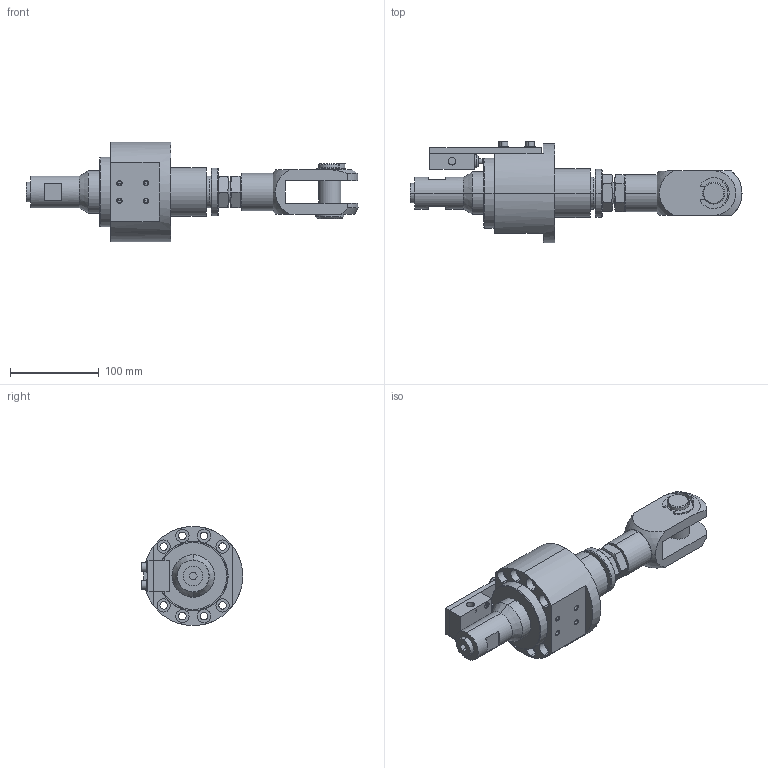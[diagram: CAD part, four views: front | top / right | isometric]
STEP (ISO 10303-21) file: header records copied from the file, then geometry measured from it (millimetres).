
FILE_DESCRIPTION (( 'STEP AP214' ), '1' );
FILE_NAME ('020612KM0_MVA_020_01_-_K1.1~1.STEP', '2019-09-24T10:10:46', ( '' ), ( '' ), 'SwSTEP 2.0', 'SolidWorks 2017', '' );
FILE_SCHEMA (( 'AUTOMOTIVE_DESIGN' ));
Length unit declared in the file: millimetre
Products named in the file (1): 020612KM0_MVA_020_01_-_K1.1~1
Bounding box: 375 x 114.6 x 112 mm (x, y, z)
Volume: 619838.9 mm3; surface area: 214314.6 mm2
Topology: 27 solids, 27 shells, 734 faces, 1733 edges, 1093 vertices
Faces by surface type: plane 355, cylinder 234, cone 98, torus 36, sphere 10, bspline 1
Entity records: 30279 total; most frequent: CARTESIAN_POINT 4511, DIRECTION 3762, ORIENTED_EDGE 3434, EDGE_CURVE 1717, AXIS2_PLACEMENT_3D 1386, VERTEX_POINT 1093, LINE 990, VECTOR 990
